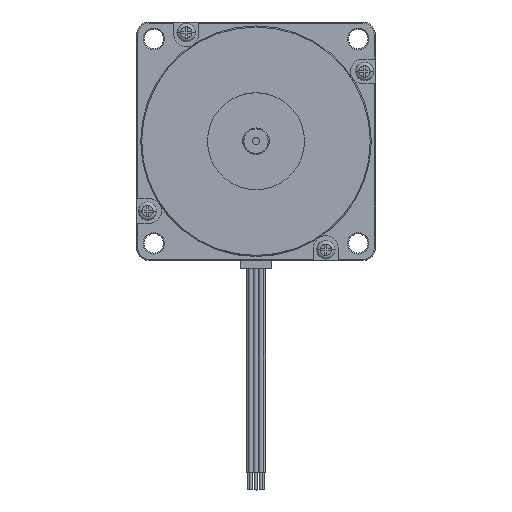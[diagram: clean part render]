
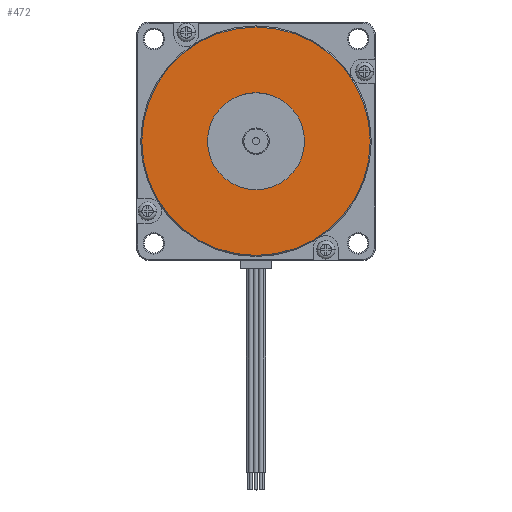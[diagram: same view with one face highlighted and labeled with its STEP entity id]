
A CAD part, top view. The second image highlights one B-rep face of the part: STEP entity #472.
In plain terms, the highlighted planar face has unit normal (0, 0, 1).
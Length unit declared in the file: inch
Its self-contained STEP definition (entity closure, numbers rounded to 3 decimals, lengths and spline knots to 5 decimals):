
#353 = ORIENTED_EDGE ( 'NONE', *, *, #655, .T. ) ;
#354 = ORIENTED_EDGE ( 'NONE', *, *, #360, .F. ) ;
#360 = EDGE_CURVE ( 'NONE', #5159, #4680, #17000, .T. ) ;
#361 = ORIENTED_EDGE ( 'NONE', *, *, #5097, .F. ) ;
#382 = EDGE_LOOP ( 'NONE', ( #361, #354 ) ) ;
#385 = EDGE_LOOP ( 'NONE', ( #392, #353 ) ) ;
#392 = ORIENTED_EDGE ( 'NONE', *, *, #395, .T. ) ;
#395 = EDGE_CURVE ( 'NONE', #13800, #15738, #17100, .T. ) ;
#472 = ADVANCED_FACE ( 'NONE', ( #17380, #17367 ), #17390, .T. ) ;
#655 = EDGE_CURVE ( 'NONE', #15738, #13800, #1906, .T. ) ;
#1888 = DIRECTION ( 'NONE',  ( 1., 0., 0. ) ) ;
#1889 = DIRECTION ( 'NONE',  ( 0., 0., 1. ) ) ;
#1890 = AXIS2_PLACEMENT_3D ( 'NONE', #1899, #1889, #1888 ) ;
#1899 = CARTESIAN_POINT ( 'NONE',  ( 0., 0., 0.06 ) ) ;
#1906 = CIRCLE ( 'NONE', #1890, 1.619 ) ;
#4267 = CARTESIAN_POINT ( 'NONE',  ( -0.6875, 0., 0.06 ) ) ;
#4287 = AXIS2_PLACEMENT_3D ( 'NONE', #4315, #4357, #4356 ) ;
#4315 = CARTESIAN_POINT ( 'NONE',  ( 0., 0., 0.06 ) ) ;
#4351 = CARTESIAN_POINT ( 'NONE',  ( 0.6875, 0., 0.06 ) ) ;
#4356 = DIRECTION ( 'NONE',  ( 1., 0., 0. ) ) ;
#4357 = DIRECTION ( 'NONE',  ( 0., 0., 1. ) ) ;
#4365 = CIRCLE ( 'NONE', #4287, 0.6875 ) ;
#4680 = VERTEX_POINT ( 'NONE', #4267 ) ;
#5097 = EDGE_CURVE ( 'NONE', #4680, #5159, #4365, .T. ) ;
#5159 = VERTEX_POINT ( 'NONE', #4351 ) ;
#7084 = CARTESIAN_POINT ( 'NONE',  ( -1.619, 0., 0.06 ) ) ;
#12824 = CARTESIAN_POINT ( 'NONE',  ( 1.619, 0., 0.06 ) ) ;
#13800 = VERTEX_POINT ( 'NONE', #7084 ) ;
#15738 = VERTEX_POINT ( 'NONE', #12824 ) ;
#17000 = CIRCLE ( 'NONE', #17025, 0.6875 ) ;
#17005 = DIRECTION ( 'NONE',  ( 0., 0., 1. ) ) ;
#17024 = DIRECTION ( 'NONE',  ( 1., 0., 0. ) ) ;
#17025 = AXIS2_PLACEMENT_3D ( 'NONE', #17032, #17005, #17024 ) ;
#17032 = CARTESIAN_POINT ( 'NONE',  ( 0., 0., 0.06 ) ) ;
#17091 = AXIS2_PLACEMENT_3D ( 'NONE', #17149, #17135, #17134 ) ;
#17100 = CIRCLE ( 'NONE', #17091, 1.619 ) ;
#17134 = DIRECTION ( 'NONE',  ( 1., 0., 0. ) ) ;
#17135 = DIRECTION ( 'NONE',  ( 0., 0., 1. ) ) ;
#17149 = CARTESIAN_POINT ( 'NONE',  ( 0., 0., 0.06 ) ) ;
#17169 = DIRECTION ( 'NONE',  ( 1., 0., 0. ) ) ;
#17367 = FACE_BOUND ( 'NONE', #382, .T. ) ;
#17380 = FACE_OUTER_BOUND ( 'NONE', #385, .T. ) ;
#17386 = AXIS2_PLACEMENT_3D ( 'NONE', #17404, #17403, #17169 ) ;
#17390 = PLANE ( 'NONE',  #17386 ) ;
#17403 = DIRECTION ( 'NONE',  ( 0., 0., 1. ) ) ;
#17404 = CARTESIAN_POINT ( 'NONE',  ( 0., 0., 0.06 ) ) ;
